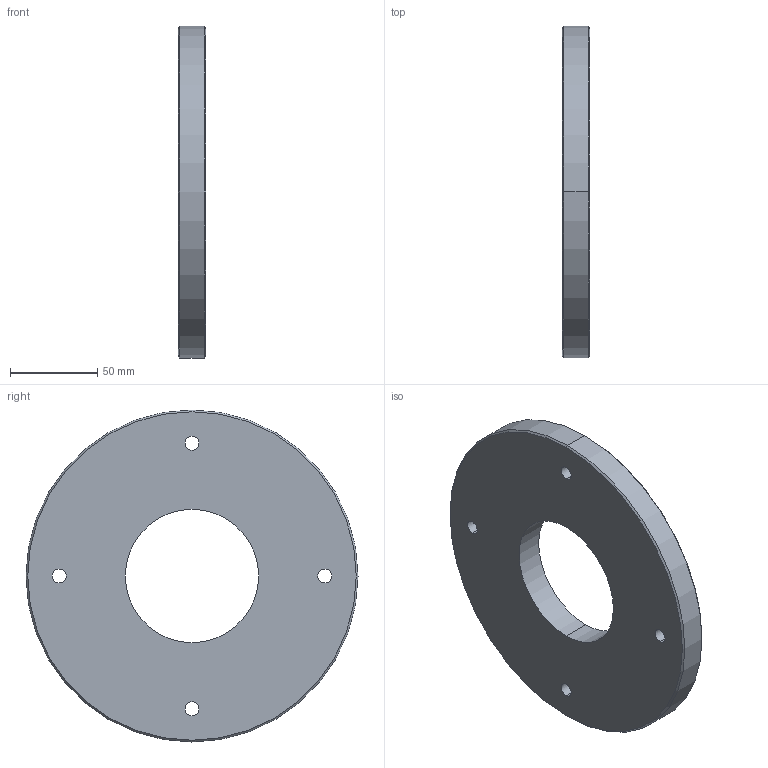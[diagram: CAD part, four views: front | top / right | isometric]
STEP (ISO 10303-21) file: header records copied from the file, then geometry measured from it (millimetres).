
FILE_DESCRIPTION (( 'STEP AP214' ), '1' );
FILE_NAME ('E38SL-6L3.0.STEP', '2016-05-23T04:44:00', ( 'eran' ), ( '' ), 'SwSTEP 2.0', 'SolidWorks 2016', '' );
FILE_SCHEMA (( 'AUTOMOTIVE_DESIGN' ));
Length unit declared in the file: millimetre
Products named in the file (1): E38SL-6L3.0
Bounding box: 15.9 x 190.5 x 190.5 mm (x, y, z)
Volume: 376311.3 mm3; surface area: 61641.5 mm2
Topology: 1 solids, 1 shells, 18 faces, 44 edges, 28 vertices
Faces by surface type: cylinder 12, cone 4, plane 2
Entity records: 598 total; most frequent: DIRECTION 110, CARTESIAN_POINT 91, ORIENTED_EDGE 88, AXIS2_PLACEMENT_3D 47, EDGE_CURVE 44, EDGE_LOOP 28, VERTEX_POINT 28, CIRCLE 28
